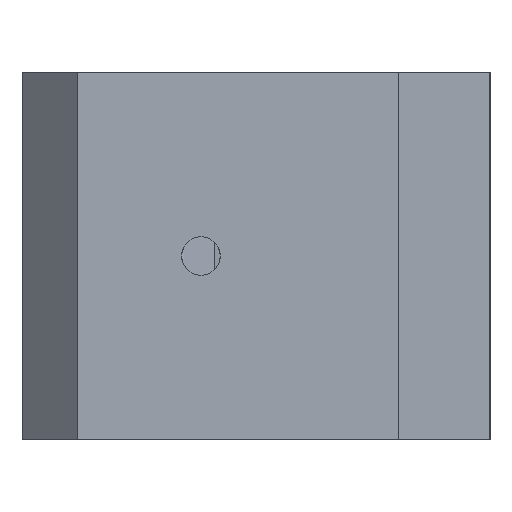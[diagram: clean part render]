
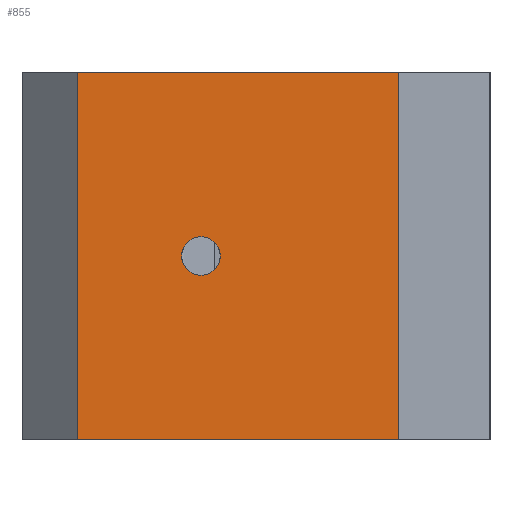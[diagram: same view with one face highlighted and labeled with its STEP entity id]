
A CAD part, left-side view. The second image highlights one B-rep face of the part: STEP entity #855.
In plain terms, the highlighted planar face has unit normal (-1, 0, 0).
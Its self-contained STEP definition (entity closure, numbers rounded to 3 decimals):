
#21 = VERTEX_POINT ( 'NONE', #614 ) ;
#33 = LINE ( 'NONE', #188, #207 ) ;
#36 = ORIENTED_EDGE ( 'NONE', *, *, #594, .F. ) ;
#48 = VECTOR ( 'NONE', #194, 1000. ) ;
#71 = CARTESIAN_POINT ( 'NONE',  ( -25., 19.5, -20. ) ) ;
#80 = LINE ( 'NONE', #71, #701 ) ;
#98 = EDGE_LOOP ( 'NONE', ( #570, #235 ) ) ;
#105 = EDGE_LOOP ( 'NONE', ( #510, #809, #36, #741 ) ) ;
#124 = EDGE_CURVE ( 'NONE', #558, #734, #192, .T. ) ;
#140 = LINE ( 'NONE', #849, #48 ) ;
#151 = CIRCLE ( 'NONE', #276, 2.1 ) ;
#168 = CARTESIAN_POINT ( 'NONE',  ( -25., 6., 0. ) ) ;
#180 = DIRECTION ( 'NONE',  ( 0., 0., 1. ) ) ;
#188 = CARTESIAN_POINT ( 'NONE',  ( -25., 25.5, -20. ) ) ;
#192 = LINE ( 'NONE', #917, #602 ) ;
#194 = DIRECTION ( 'NONE',  ( 0., 0., 1. ) ) ;
#205 = FACE_OUTER_BOUND ( 'NONE', #105, .T. ) ;
#207 = VECTOR ( 'NONE', #834, 1000. ) ;
#223 = CIRCLE ( 'NONE', #349, 2.1 ) ;
#235 = ORIENTED_EDGE ( 'NONE', *, *, #272, .F. ) ;
#272 = EDGE_CURVE ( 'NONE', #674, #582, #151, .T. ) ;
#276 = AXIS2_PLACEMENT_3D ( 'NONE', #168, #512, #180 ) ;
#349 = AXIS2_PLACEMENT_3D ( 'NONE', #540, #613, #394 ) ;
#374 = DIRECTION ( 'NONE',  ( 0., 0., -1. ) ) ;
#394 = DIRECTION ( 'NONE',  ( 0., 0., 1. ) ) ;
#419 = DIRECTION ( 'NONE',  ( 1., 0., 0. ) ) ;
#425 = PLANE ( 'NONE',  #645 ) ;
#438 = CARTESIAN_POINT ( 'NONE',  ( -25., 19.5, -20. ) ) ;
#461 = VERTEX_POINT ( 'NONE', #438 ) ;
#471 = CARTESIAN_POINT ( 'NONE',  ( -25., 6., 2.1 ) ) ;
#481 = CARTESIAN_POINT ( 'NONE',  ( -25., 25.5, -20. ) ) ;
#485 = FACE_BOUND ( 'NONE', #98, .T. ) ;
#510 = ORIENTED_EDGE ( 'NONE', *, *, #124, .T. ) ;
#512 = DIRECTION ( 'NONE',  ( -1., 0., 0. ) ) ;
#540 = CARTESIAN_POINT ( 'NONE',  ( -25., 6., 0. ) ) ;
#554 = DIRECTION ( 'NONE',  ( 0., 1., 0. ) ) ;
#558 = VERTEX_POINT ( 'NONE', #816 ) ;
#570 = ORIENTED_EDGE ( 'NONE', *, *, #623, .F. ) ;
#582 = VERTEX_POINT ( 'NONE', #471 ) ;
#594 = EDGE_CURVE ( 'NONE', #21, #461, #33, .T. ) ;
#602 = VECTOR ( 'NONE', #554, 1000. ) ;
#613 = DIRECTION ( 'NONE',  ( -1., 0., 0. ) ) ;
#614 = CARTESIAN_POINT ( 'NONE',  ( -25., -15.5, -20. ) ) ;
#623 = EDGE_CURVE ( 'NONE', #582, #674, #223, .T. ) ;
#632 = DIRECTION ( 'NONE',  ( 0., 1., 0. ) ) ;
#645 = AXIS2_PLACEMENT_3D ( 'NONE', #481, #419, #632 ) ;
#674 = VERTEX_POINT ( 'NONE', #794 ) ;
#697 = EDGE_CURVE ( 'NONE', #734, #461, #80, .T. ) ;
#701 = VECTOR ( 'NONE', #374, 1000. ) ;
#716 = CARTESIAN_POINT ( 'NONE',  ( -25., 19.5, 20. ) ) ;
#734 = VERTEX_POINT ( 'NONE', #716 ) ;
#741 = ORIENTED_EDGE ( 'NONE', *, *, #828, .T. ) ;
#794 = CARTESIAN_POINT ( 'NONE',  ( -25., 6., -2.1 ) ) ;
#809 = ORIENTED_EDGE ( 'NONE', *, *, #697, .T. ) ;
#816 = CARTESIAN_POINT ( 'NONE',  ( -25., -15.5, 20. ) ) ;
#828 = EDGE_CURVE ( 'NONE', #21, #558, #140, .T. ) ;
#834 = DIRECTION ( 'NONE',  ( 0., 1., 0. ) ) ;
#849 = CARTESIAN_POINT ( 'NONE',  ( -25., -15.5, -20. ) ) ;
#855 = ADVANCED_FACE ( 'NONE', ( #485, #205 ), #425, .F. ) ;
#917 = CARTESIAN_POINT ( 'NONE',  ( -25., 25.5, 20. ) ) ;
